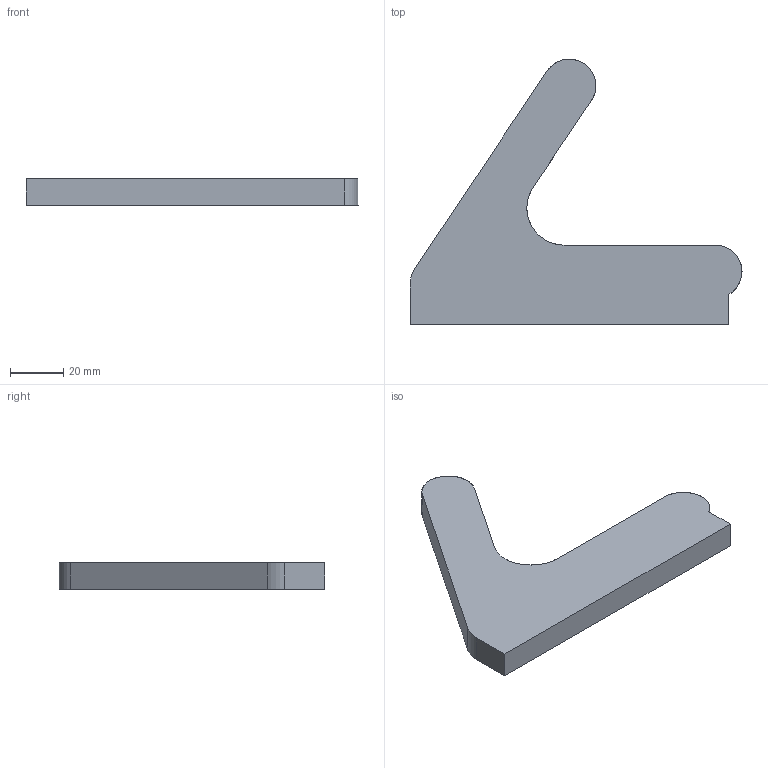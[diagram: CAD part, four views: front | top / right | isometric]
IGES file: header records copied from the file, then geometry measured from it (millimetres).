
Start section: SolidWorks IGES file using analytic representation for surfaces
Global section: file name: E:\Nouveau dossier\tarek\mécaniquee\L3GMCFM\TP0\EX3.IGS; native system: SolidWorks 2013; preprocessor: SolidWorks 2013; author: LENOVO; date: 180916.193852; units: millimetre
Bounding box: 125 x 100 x 10 mm (x, y, z)
Surface area: 15013.6 mm2 (no closed solid volume)
Topology: 0 solids, 0 shells, 13 faces, 152 edges, 152 vertices
Faces by surface type: bspline 8, revolution 5
